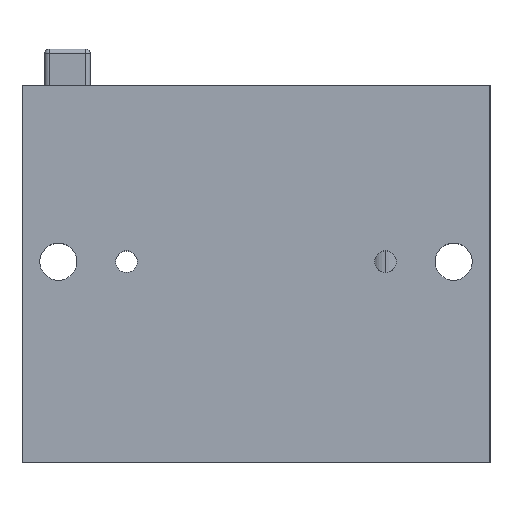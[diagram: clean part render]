
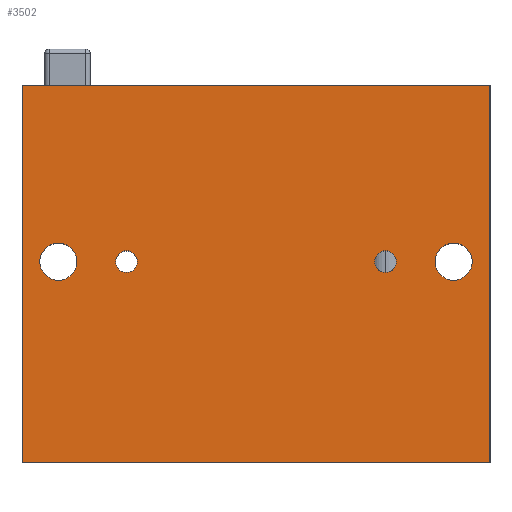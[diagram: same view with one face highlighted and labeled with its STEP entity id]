
A CAD part, top view. The second image highlights one B-rep face of the part: STEP entity #3502.
In plain terms, the highlighted planar face has unit normal (0, 0, 1).
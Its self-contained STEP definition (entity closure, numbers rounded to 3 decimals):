
#20 = VECTOR ( 'NONE', #1017, 1000. ) ;
#353 = EDGE_CURVE ( 'NONE', #1624, #1501, #3380, .T. ) ;
#428 = VECTOR ( 'NONE', #5730, 1000. ) ;
#766 = VECTOR ( 'NONE', #3921, 1000. ) ;
#793 = CARTESIAN_POINT ( 'NONE',  ( 23., 44.2, 22. ) ) ;
#823 = FACE_BOUND ( 'NONE', #3934, .T. ) ;
#1017 = DIRECTION ( 'NONE',  ( 1., 0., 0. ) ) ;
#1060 = EDGE_CURVE ( 'NONE', #1501, #4524, #6263, .T. ) ;
#1132 = CARTESIAN_POINT ( 'NONE',  ( 8., 44.2, 22. ) ) ;
#1147 = EDGE_CURVE ( 'NONE', #7038, #4524, #5658, .T. ) ;
#1159 = CARTESIAN_POINT ( 'NONE',  ( 20.6, 44.2, 22. ) ) ;
#1219 = CARTESIAN_POINT ( 'NONE',  ( 95., 44.2, 22. ) ) ;
#1318 = CARTESIAN_POINT ( 'NONE',  ( 80., 44.2, 22. ) ) ;
#1436 = DIRECTION ( 'NONE',  ( 1., 0., 0. ) ) ;
#1501 = VERTEX_POINT ( 'NONE', #6815 ) ;
#1624 = VERTEX_POINT ( 'NONE', #5651 ) ;
#1779 = DIRECTION ( 'NONE',  ( 1., 0., 0. ) ) ;
#1796 = CIRCLE ( 'NONE', #6688, 4.1 ) ;
#1799 = CIRCLE ( 'NONE', #7472, 2.4 ) ;
#1810 = VERTEX_POINT ( 'NONE', #2082 ) ;
#1865 = DIRECTION ( 'NONE',  ( 1., 0., 0. ) ) ;
#1972 = DIRECTION ( 'NONE',  ( 1., 0., 0. ) ) ;
#2082 = CARTESIAN_POINT ( 'NONE',  ( 77.6, 44.2, 22. ) ) ;
#2150 = EDGE_CURVE ( 'NONE', #1810, #4599, #5343, .T. ) ;
#2166 = EDGE_CURVE ( 'NONE', #4011, #6152, #3442, .T. ) ;
#2216 = CARTESIAN_POINT ( 'NONE',  ( 95., 44.2, 22. ) ) ;
#2271 = CARTESIAN_POINT ( 'NONE',  ( 25.4, 44.2, 22. ) ) ;
#2366 = DIRECTION ( 'NONE',  ( 0., 0., 1. ) ) ;
#2717 = CARTESIAN_POINT ( 'NONE',  ( 0., 0., 22. ) ) ;
#2726 = CARTESIAN_POINT ( 'NONE',  ( 103., 0., 22. ) ) ;
#2747 = CARTESIAN_POINT ( 'NONE',  ( 99.1, 44.2, 22. ) ) ;
#2818 = CARTESIAN_POINT ( 'NONE',  ( 82.4, 44.2, 22. ) ) ;
#2850 = DIRECTION ( 'NONE',  ( 1., 0., 0. ) ) ;
#2930 = AXIS2_PLACEMENT_3D ( 'NONE', #4057, #7828, #3406 ) ;
#3056 = ORIENTED_EDGE ( 'NONE', *, *, #2166, .F. ) ;
#3089 = EDGE_CURVE ( 'NONE', #3198, #3375, #7030, .T. ) ;
#3185 = DIRECTION ( 'NONE',  ( 0., -1., 0. ) ) ;
#3198 = VERTEX_POINT ( 'NONE', #2747 ) ;
#3265 = CARTESIAN_POINT ( 'NONE',  ( 3.9, 44.2, 22. ) ) ;
#3375 = VERTEX_POINT ( 'NONE', #5437 ) ;
#3376 = DIRECTION ( 'NONE',  ( 1., 0., 0. ) ) ;
#3380 = LINE ( 'NONE', #6098, #20 ) ;
#3406 = DIRECTION ( 'NONE',  ( 1., 0., 0. ) ) ;
#3442 = CIRCLE ( 'NONE', #4221, 4.1 ) ;
#3502 = ADVANCED_FACE ( 'NONE', ( #823, #4234, #6322, #7398, #5715 ), #5636, .F. ) ;
#3511 = ORIENTED_EDGE ( 'NONE', *, *, #5483, .T. ) ;
#3537 = DIRECTION ( 'NONE',  ( -1., 0., 0. ) ) ;
#3631 = CARTESIAN_POINT ( 'NONE',  ( 23., 44.2, 22. ) ) ;
#3686 = AXIS2_PLACEMENT_3D ( 'NONE', #5000, #5767, #3537 ) ;
#3702 = VERTEX_POINT ( 'NONE', #1159 ) ;
#3921 = DIRECTION ( 'NONE',  ( 1., 0., 0. ) ) ;
#3934 = EDGE_LOOP ( 'NONE', ( #3056, #5200 ) ) ;
#4011 = VERTEX_POINT ( 'NONE', #5239 ) ;
#4012 = AXIS2_PLACEMENT_3D ( 'NONE', #1219, #2366, #1865 ) ;
#4031 = DIRECTION ( 'NONE',  ( 0., 0., 1. ) ) ;
#4057 = CARTESIAN_POINT ( 'NONE',  ( 80., 44.2, 22. ) ) ;
#4140 = ORIENTED_EDGE ( 'NONE', *, *, #1060, .F. ) ;
#4174 = ORIENTED_EDGE ( 'NONE', *, *, #5782, .F. ) ;
#4207 = CARTESIAN_POINT ( 'NONE',  ( 8., 44.2, 22. ) ) ;
#4210 = VERTEX_POINT ( 'NONE', #2271 ) ;
#4221 = AXIS2_PLACEMENT_3D ( 'NONE', #4207, #4031, #3376 ) ;
#4234 = FACE_BOUND ( 'NONE', #4561, .T. ) ;
#4275 = DIRECTION ( 'NONE',  ( 1., 0., 0. ) ) ;
#4371 = VECTOR ( 'NONE', #3185, 1000. ) ;
#4524 = VERTEX_POINT ( 'NONE', #2726 ) ;
#4561 = EDGE_LOOP ( 'NONE', ( #7419, #6388 ) ) ;
#4599 = VERTEX_POINT ( 'NONE', #2818 ) ;
#4802 = CIRCLE ( 'NONE', #7818, 4.1 ) ;
#5000 = CARTESIAN_POINT ( 'NONE',  ( 0., 83., 22. ) ) ;
#5091 = CIRCLE ( 'NONE', #5562, 2.4 ) ;
#5200 = ORIENTED_EDGE ( 'NONE', *, *, #5366, .F. ) ;
#5239 = CARTESIAN_POINT ( 'NONE',  ( 12.1, 44.2, 22. ) ) ;
#5255 = DIRECTION ( 'NONE',  ( 0., 0., 1. ) ) ;
#5343 = CIRCLE ( 'NONE', #2930, 2.4 ) ;
#5366 = EDGE_CURVE ( 'NONE', #6152, #4011, #4802, .T. ) ;
#5369 = ORIENTED_EDGE ( 'NONE', *, *, #353, .F. ) ;
#5437 = CARTESIAN_POINT ( 'NONE',  ( 90.9, 44.2, 22. ) ) ;
#5483 = EDGE_CURVE ( 'NONE', #1624, #7038, #7176, .T. ) ;
#5547 = EDGE_CURVE ( 'NONE', #4599, #1810, #5091, .T. ) ;
#5562 = AXIS2_PLACEMENT_3D ( 'NONE', #1318, #5778, #1972 ) ;
#5595 = DIRECTION ( 'NONE',  ( 0., 0., 1. ) ) ;
#5632 = EDGE_LOOP ( 'NONE', ( #6209, #4174 ) ) ;
#5636 = PLANE ( 'NONE',  #3686 ) ;
#5651 = CARTESIAN_POINT ( 'NONE',  ( 0., 83., 22. ) ) ;
#5658 = LINE ( 'NONE', #7094, #766 ) ;
#5660 = CIRCLE ( 'NONE', #7533, 2.4 ) ;
#5715 = FACE_OUTER_BOUND ( 'NONE', #6088, .T. ) ;
#5730 = DIRECTION ( 'NONE',  ( 0., -1., 0. ) ) ;
#5767 = DIRECTION ( 'NONE',  ( 0., 0., -1. ) ) ;
#5778 = DIRECTION ( 'NONE',  ( 0., 0., 1. ) ) ;
#5782 = EDGE_CURVE ( 'NONE', #3375, #3198, #1796, .T. ) ;
#6088 = EDGE_LOOP ( 'NONE', ( #6587, #4140, #5369, #3511 ) ) ;
#6098 = CARTESIAN_POINT ( 'NONE',  ( 0., 83., 22. ) ) ;
#6152 = VERTEX_POINT ( 'NONE', #3265 ) ;
#6209 = ORIENTED_EDGE ( 'NONE', *, *, #3089, .F. ) ;
#6260 = ORIENTED_EDGE ( 'NONE', *, *, #2150, .F. ) ;
#6263 = LINE ( 'NONE', #6357, #4371 ) ;
#6322 = FACE_BOUND ( 'NONE', #6929, .T. ) ;
#6342 = CARTESIAN_POINT ( 'NONE',  ( 0., 83., 22. ) ) ;
#6357 = CARTESIAN_POINT ( 'NONE',  ( 103., 83., 22. ) ) ;
#6388 = ORIENTED_EDGE ( 'NONE', *, *, #6498, .F. ) ;
#6498 = EDGE_CURVE ( 'NONE', #3702, #4210, #1799, .T. ) ;
#6587 = ORIENTED_EDGE ( 'NONE', *, *, #1147, .T. ) ;
#6679 = DIRECTION ( 'NONE',  ( 0., 0., 1. ) ) ;
#6688 = AXIS2_PLACEMENT_3D ( 'NONE', #2216, #6679, #2850 ) ;
#6815 = CARTESIAN_POINT ( 'NONE',  ( 103., 83., 22. ) ) ;
#6929 = EDGE_LOOP ( 'NONE', ( #7990, #6260 ) ) ;
#7030 = CIRCLE ( 'NONE', #4012, 4.1 ) ;
#7038 = VERTEX_POINT ( 'NONE', #2717 ) ;
#7094 = CARTESIAN_POINT ( 'NONE',  ( 0., 0., 22. ) ) ;
#7176 = LINE ( 'NONE', #6342, #428 ) ;
#7398 = FACE_BOUND ( 'NONE', #5632, .T. ) ;
#7419 = ORIENTED_EDGE ( 'NONE', *, *, #7557, .F. ) ;
#7472 = AXIS2_PLACEMENT_3D ( 'NONE', #3631, #8053, #4275 ) ;
#7533 = AXIS2_PLACEMENT_3D ( 'NONE', #793, #5255, #1436 ) ;
#7557 = EDGE_CURVE ( 'NONE', #4210, #3702, #5660, .T. ) ;
#7818 = AXIS2_PLACEMENT_3D ( 'NONE', #1132, #5595, #1779 ) ;
#7828 = DIRECTION ( 'NONE',  ( 0., 0., 1. ) ) ;
#7990 = ORIENTED_EDGE ( 'NONE', *, *, #5547, .F. ) ;
#8053 = DIRECTION ( 'NONE',  ( 0., 0., 1. ) ) ;
